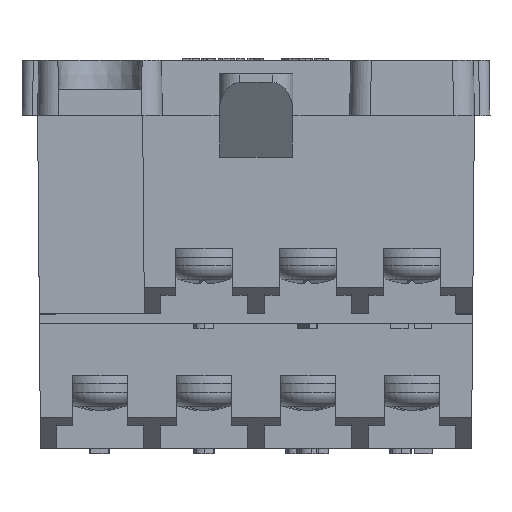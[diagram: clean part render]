
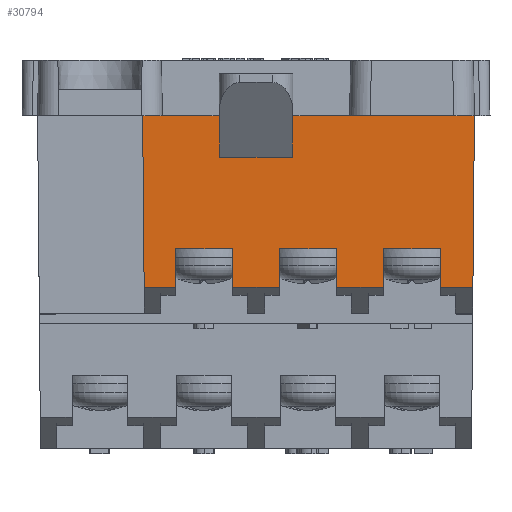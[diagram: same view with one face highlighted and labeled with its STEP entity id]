
A CAD part, front view. The second image highlights one B-rep face of the part: STEP entity #30794.
In plain terms, the highlighted planar face has unit normal (0, -1, -0.009).
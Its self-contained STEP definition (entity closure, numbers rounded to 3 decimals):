
#2964=FACE_OUTER_BOUND('',#4645,.T.);
#4645=EDGE_LOOP('',(#23577,#23578,#23579,#23580,#23581,#23582,#23583,#23584,
#23585,#23586,#23587,#23588,#23589,#23590,#23591,#23592,#23593,#23594,#23595,
#23596,#23597,#23598));
#7028=LINE('',#48935,#9989);
#7032=LINE('',#48944,#9993);
#7036=LINE('',#48951,#9997);
#7038=LINE('',#48956,#9999);
#7041=LINE('',#48962,#10002);
#7044=LINE('',#48966,#10005);
#7045=LINE('',#48970,#10006);
#7049=LINE('',#48979,#10010);
#7053=LINE('',#48986,#10014);
#7059=LINE('',#48996,#10020);
#7063=LINE('',#49003,#10024);
#7064=LINE('',#49005,#10025);
#7065=LINE('',#49007,#10026);
#7117=LINE('',#49103,#10078);
#7140=LINE('',#49157,#10101);
#7187=LINE('',#49285,#10148);
#7188=LINE('',#49286,#10149);
#7189=LINE('',#49288,#10150);
#7190=LINE('',#49290,#10151);
#7191=LINE('',#49291,#10152);
#7192=LINE('',#49292,#10153);
#7193=LINE('',#49293,#10154);
#9989=VECTOR('',#37694,10.);
#9993=VECTOR('',#37700,10.);
#9997=VECTOR('',#37706,10.);
#9999=VECTOR('',#37710,10.);
#10002=VECTOR('',#37715,10.);
#10005=VECTOR('',#37720,10.);
#10006=VECTOR('',#37723,10.);
#10010=VECTOR('',#37729,10.);
#10014=VECTOR('',#37735,10.);
#10020=VECTOR('',#37747,10.);
#10024=VECTOR('',#37753,10.);
#10025=VECTOR('',#37756,10.);
#10026=VECTOR('',#37759,10.);
#10078=VECTOR('',#37849,10.);
#10101=VECTOR('',#37904,10.);
#10148=VECTOR('',#38037,10.);
#10149=VECTOR('',#38038,10.);
#10150=VECTOR('',#38039,10.);
#10151=VECTOR('',#38040,10.);
#10152=VECTOR('',#38041,10.);
#10153=VECTOR('',#38042,10.);
#10154=VECTOR('',#38043,10.);
#13259=VERTEX_POINT('',#48851);
#13267=VERTEX_POINT('',#48873);
#13288=VERTEX_POINT('',#48933);
#13289=VERTEX_POINT('',#48934);
#13292=VERTEX_POINT('',#48942);
#13293=VERTEX_POINT('',#48943);
#13296=VERTEX_POINT('',#48954);
#13297=VERTEX_POINT('',#48955);
#13298=VERTEX_POINT('',#48960);
#13299=VERTEX_POINT('',#48961);
#13300=VERTEX_POINT('',#48968);
#13301=VERTEX_POINT('',#48969);
#13304=VERTEX_POINT('',#48977);
#13305=VERTEX_POINT('',#48978);
#13308=VERTEX_POINT('',#48995);
#13310=VERTEX_POINT('',#49001);
#13335=VERTEX_POINT('',#49101);
#13349=VERTEX_POINT('',#49154);
#13350=VERTEX_POINT('',#49156);
#13388=VERTEX_POINT('',#49284);
#13389=VERTEX_POINT('',#49287);
#13390=VERTEX_POINT('',#49289);
#16907=EDGE_CURVE('',#13288,#13289,#7028,.T.);
#16911=EDGE_CURVE('',#13292,#13293,#7032,.T.);
#16915=EDGE_CURVE('',#13293,#13288,#7036,.T.);
#16917=EDGE_CURVE('',#13296,#13297,#7038,.T.);
#16920=EDGE_CURVE('',#13298,#13299,#7041,.T.);
#16923=EDGE_CURVE('',#13299,#13296,#7044,.T.);
#16924=EDGE_CURVE('',#13300,#13301,#7045,.T.);
#16928=EDGE_CURVE('',#13304,#13305,#7049,.T.);
#16932=EDGE_CURVE('',#13305,#13300,#7053,.T.);
#16938=EDGE_CURVE('',#13304,#13308,#7059,.T.);
#16942=EDGE_CURVE('',#13310,#13297,#7063,.T.);
#16943=EDGE_CURVE('',#13292,#13301,#7064,.T.);
#16944=EDGE_CURVE('',#13298,#13289,#7065,.T.);
#16996=EDGE_CURVE('',#13335,#13310,#7117,.T.);
#17022=EDGE_CURVE('',#13349,#13350,#7140,.T.);
#17090=EDGE_CURVE('',#13388,#13335,#7187,.T.);
#17091=EDGE_CURVE('',#13267,#13388,#7188,.T.);
#17092=EDGE_CURVE('',#13267,#13389,#7189,.T.);
#17093=EDGE_CURVE('',#13389,#13390,#7190,.T.);
#17094=EDGE_CURVE('',#13390,#13259,#7191,.T.);
#17095=EDGE_CURVE('',#13350,#13259,#7192,.T.);
#17096=EDGE_CURVE('',#13349,#13308,#7193,.T.);
#23577=ORIENTED_EDGE('',*,*,#16907,.T.);
#23578=ORIENTED_EDGE('',*,*,#16944,.F.);
#23579=ORIENTED_EDGE('',*,*,#16920,.T.);
#23580=ORIENTED_EDGE('',*,*,#16923,.T.);
#23581=ORIENTED_EDGE('',*,*,#16917,.T.);
#23582=ORIENTED_EDGE('',*,*,#16942,.F.);
#23583=ORIENTED_EDGE('',*,*,#16996,.F.);
#23584=ORIENTED_EDGE('',*,*,#17090,.F.);
#23585=ORIENTED_EDGE('',*,*,#17091,.F.);
#23586=ORIENTED_EDGE('',*,*,#17092,.T.);
#23587=ORIENTED_EDGE('',*,*,#17093,.T.);
#23588=ORIENTED_EDGE('',*,*,#17094,.T.);
#23589=ORIENTED_EDGE('',*,*,#17095,.F.);
#23590=ORIENTED_EDGE('',*,*,#17022,.F.);
#23591=ORIENTED_EDGE('',*,*,#17096,.T.);
#23592=ORIENTED_EDGE('',*,*,#16938,.F.);
#23593=ORIENTED_EDGE('',*,*,#16928,.T.);
#23594=ORIENTED_EDGE('',*,*,#16932,.T.);
#23595=ORIENTED_EDGE('',*,*,#16924,.T.);
#23596=ORIENTED_EDGE('',*,*,#16943,.F.);
#23597=ORIENTED_EDGE('',*,*,#16911,.T.);
#23598=ORIENTED_EDGE('',*,*,#16915,.T.);
#27886=PLANE('',#32940);
#30794=ADVANCED_FACE('',(#2964),#27886,.T.);
#32940=AXIS2_PLACEMENT_3D('',#49283,#38035,#38036);
#37694=DIRECTION('',(0.009,0.009,-1.));
#37700=DIRECTION('',(0.009,-0.009,1.));
#37706=DIRECTION('',(1.,0.,0.));
#37710=DIRECTION('',(0.009,0.009,-1.));
#37715=DIRECTION('',(0.009,-0.009,1.));
#37720=DIRECTION('',(1.,0.,0.));
#37723=DIRECTION('',(0.009,0.009,-1.));
#37729=DIRECTION('',(0.009,-0.009,1.));
#37735=DIRECTION('',(1.,0.,0.));
#37747=DIRECTION('',(-1.,0.,0.));
#37753=DIRECTION('',(-1.,0.,0.));
#37756=DIRECTION('',(-1.,0.,0.));
#37759=DIRECTION('',(-1.,0.,0.));
#37849=DIRECTION('',(-0.009,0.009,-1.));
#37904=DIRECTION('',(1.,0.,0.));
#38035=DIRECTION('center_axis',(0.,-1.,
-0.009));
#38036=DIRECTION('ref_axis',(-1.,0.,0.));
#38037=DIRECTION('',(1.,0.,0.));
#38038=DIRECTION('',(1.,0.,0.));
#38039=DIRECTION('',(-0.017,0.009,-1.));
#38040=DIRECTION('',(-1.,0.,0.));
#38041=DIRECTION('',(-0.017,-0.009,1.));
#38042=DIRECTION('',(1.,0.,0.));
#38043=DIRECTION('',(0.009,0.009,-1.));
#48851=CARTESIAN_POINT('',(-3.55,-27.5,-5.3));
#48873=CARTESIAN_POINT('',(3.55,-27.5,-5.3));
#48933=CARTESIAN_POINT('',(7.722,-27.388,-18.1));
#48934=CARTESIAN_POINT('',(7.754,-27.356,-21.8));
#48935=CARTESIAN_POINT('',(7.693,-27.418,-14.739));
#48942=CARTESIAN_POINT('',(2.246,-27.356,-21.8));
#48943=CARTESIAN_POINT('',(2.278,-27.388,-18.1));
#48944=CARTESIAN_POINT('',(2.306,-27.417,-14.837));
#48951=CARTESIAN_POINT('',(-2.95,-27.388,-18.1));
#48954=CARTESIAN_POINT('',(17.722,-27.388,-18.1));
#48955=CARTESIAN_POINT('',(17.754,-27.356,-21.8));
#48956=CARTESIAN_POINT('',(17.692,-27.418,-14.695));
#48960=CARTESIAN_POINT('',(12.246,-27.356,-21.8));
#48961=CARTESIAN_POINT('',(12.278,-27.388,-18.1));
#48962=CARTESIAN_POINT('',(12.306,-27.416,-14.884));
#48966=CARTESIAN_POINT('',(2.05,-27.388,-18.1));
#48968=CARTESIAN_POINT('',(-2.278,-27.388,-18.1));
#48969=CARTESIAN_POINT('',(-2.246,-27.356,-21.8));
#48970=CARTESIAN_POINT('',(-2.307,-27.417,-14.782));
#48977=CARTESIAN_POINT('',(-7.754,-27.356,-21.8));
#48978=CARTESIAN_POINT('',(-7.722,-27.388,-18.1));
#48979=CARTESIAN_POINT('',(-7.693,-27.417,-14.789));
#48986=CARTESIAN_POINT('',(-7.95,-27.388,-18.1));
#48995=CARTESIAN_POINT('',(-10.756,-27.356,-21.8));
#48996=CARTESIAN_POINT('',(4.553,-27.356,-21.8));
#49001=CARTESIAN_POINT('',(20.856,-27.356,-21.8));
#49003=CARTESIAN_POINT('',(4.553,-27.356,-21.8));
#49005=CARTESIAN_POINT('',(4.553,-27.356,-21.8));
#49007=CARTESIAN_POINT('',(4.553,-27.356,-21.8));
#49101=CARTESIAN_POINT('',(21.,-27.5,-5.3));
#49103=CARTESIAN_POINT('',(20.999,-27.499,-5.439));
#49154=CARTESIAN_POINT('',(-10.9,-27.5,-5.3));
#49156=CARTESIAN_POINT('',(-9.,-27.5,-5.3));
#49157=CARTESIAN_POINT('',(-5.45,-27.5,-5.3));
#49283=CARTESIAN_POINT('Origin',(-10.9,-27.5,-5.3));
#49284=CARTESIAN_POINT('',(9.,-27.5,-5.3));
#49285=CARTESIAN_POINT('',(-5.45,-27.5,-5.3));
#49286=CARTESIAN_POINT('',(-9.,-27.5,-5.3));
#49287=CARTESIAN_POINT('',(3.48,-27.465,-9.3));
#49288=CARTESIAN_POINT('',(3.548,-27.499,-5.404));
#49289=CARTESIAN_POINT('',(-3.48,-27.465,-9.3));
#49290=CARTESIAN_POINT('',(-5.45,-27.465,-9.3));
#49291=CARTESIAN_POINT('',(-3.551,-27.501,-5.238));
#49292=CARTESIAN_POINT('',(-9.,-27.5,-5.3));
#49293=CARTESIAN_POINT('',(-10.9,-27.5,-5.329));
